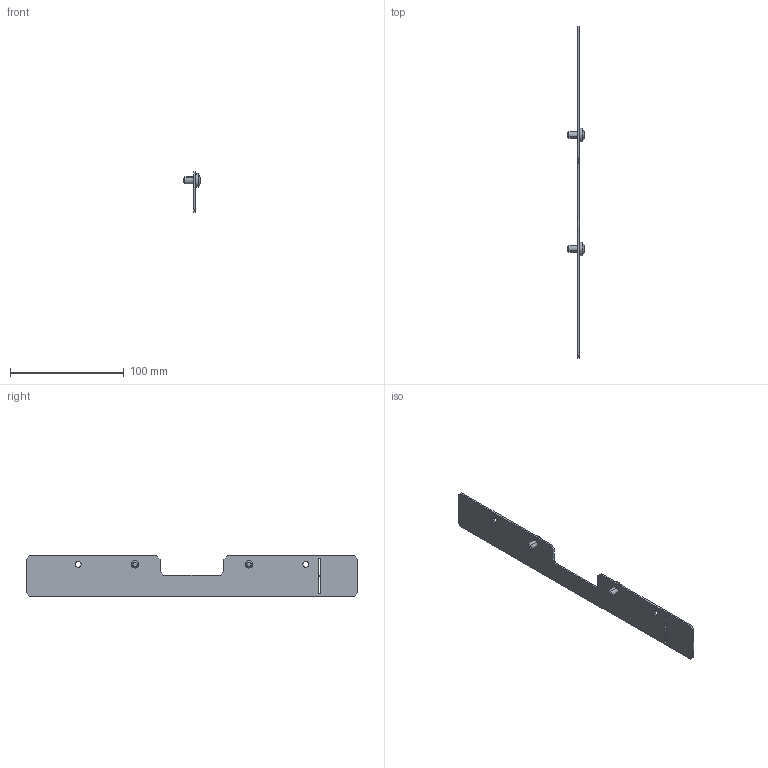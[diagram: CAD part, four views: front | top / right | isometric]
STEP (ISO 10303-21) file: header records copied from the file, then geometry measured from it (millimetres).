
FILE_DESCRIPTION (( 'STEP AP214' ), '1' );
FILE_NAME ('Ïëàíêà ñåêöèîíèðîâàíèÿ êîìïåíñàöèîííàÿ òèï 1 â øêàô øèðèíîé 400 ìì.STEP', '2025-08-12T11:51:16', ( '' ), ( '' ), 'SwSTEP 2.0', 'SolidWorks 2023', '' );
FILE_SCHEMA (( 'AUTOMOTIVE_DESIGN' ));
Length unit declared in the file: millimetre
Products named in the file (1): Планка секционирования компенсационная тип 1 в шкаф шириной 400 мм
Bounding box: 14.34 x 291.5 x 35.5 mm (x, y, z)
Volume: 15076.1 mm3; surface area: 20757 mm2
Topology: 3 solids, 3 shells, 90 faces, 234 edges, 152 vertices
Faces by surface type: cylinder 46, plane 32, torus 4, cone 4, sphere 4
Entity records: 2891 total; most frequent: CARTESIAN_POINT 611, ORIENTED_EDGE 468, DIRECTION 460, EDGE_CURVE 234, AXIS2_PLACEMENT_3D 169, VERTEX_POINT 152, LINE 122, VECTOR 122
